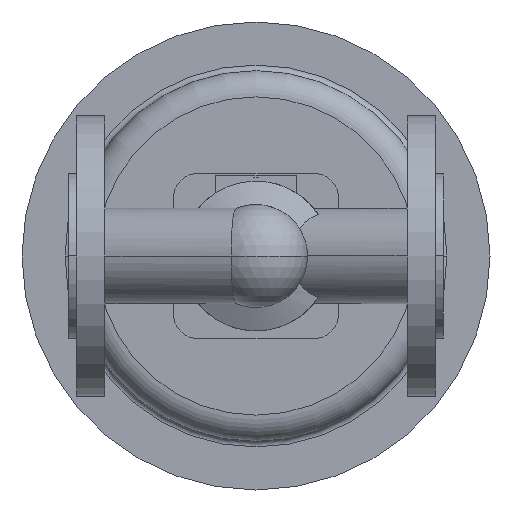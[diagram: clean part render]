
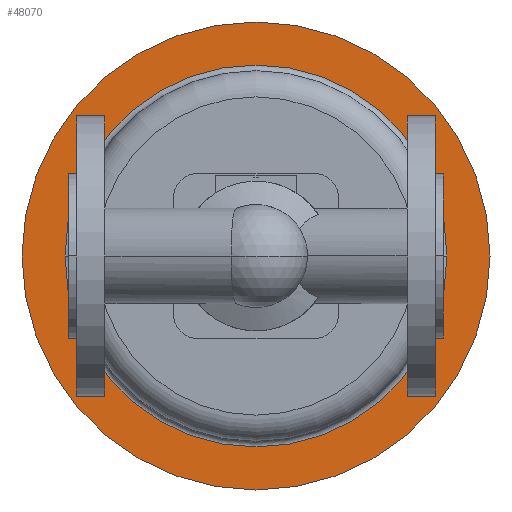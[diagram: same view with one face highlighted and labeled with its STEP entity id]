
A CAD part, front view. The second image highlights one B-rep face of the part: STEP entity #48070.
In plain terms, the highlighted planar face has unit normal (0, -1, 0).
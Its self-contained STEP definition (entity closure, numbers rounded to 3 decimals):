
#33330=CARTESIAN_POINT('',(-25.,390.,0.));
#33340=VERTEX_POINT('',#33330);
#33370=CARTESIAN_POINT('',(100.,390.,0.));
#33380=DIRECTION('',(0.,1.,0.));
#33390=DIRECTION('',(1.,0.,0.));
#33400=AXIS2_PLACEMENT_3D('',#33370,#33380,#33390);
#33410=CIRCLE('',#33400,125.);
#33420=CARTESIAN_POINT('',(225.,390.,0.));
#33430=VERTEX_POINT('',#33420);
#33440=EDGE_CURVE('',#33430,#33340,#33410,.T.);
#33690=CARTESIAN_POINT('',(100.,390.,0.));
#33700=DIRECTION('',(0.,1.,0.));
#33710=DIRECTION('',(1.,0.,0.));
#33720=AXIS2_PLACEMENT_3D('',#33690,#33700,#33710);
#33730=CIRCLE('',#33720,102.);
#33740=CARTESIAN_POINT('',(100.,390.,102.));
#33750=VERTEX_POINT('',#33740);
#33760=CARTESIAN_POINT('',(202.,390.,0.));
#33770=VERTEX_POINT('',#33760);
#33780=EDGE_CURVE('',#33750,#33770,#33730,.T.);
#34030=CARTESIAN_POINT('',(-2.,390.,0.));
#34040=VERTEX_POINT('',#34030);
#34070=EDGE_CURVE('',#34040,#33750,#33730,.T.);
#47910=CARTESIAN_POINT('',(213.5,390.,0.));
#47920=DIRECTION('',(0.,-1.,0.));
#47930=DIRECTION('',(-1.,0.,0.));
#47940=AXIS2_PLACEMENT_3D('',#47910,#47920,#47930);
#47950=PLANE('',#47940);
#47960=ORIENTED_EDGE('',*,*,#33440,.F.);
#47970=EDGE_CURVE('',#33340,#33430,#33410,.T.);
#47980=ORIENTED_EDGE('',*,*,#47970,.F.);
#47990=EDGE_LOOP('',(#47980,#47960));
#48000=FACE_OUTER_BOUND('',#47990,.T.);
#48010=EDGE_CURVE('',#33770,#34040,#33730,.T.);
#48020=ORIENTED_EDGE('',*,*,#48010,.T.);
#48030=ORIENTED_EDGE('',*,*,#33780,.T.);
#48040=ORIENTED_EDGE('',*,*,#34070,.T.);
#48050=EDGE_LOOP('',(#48040,#48030,#48020));
#48060=FACE_BOUND('',#48050,.T.);
#48070=ADVANCED_FACE('',(#48000,#48060),#47950,.T.);
